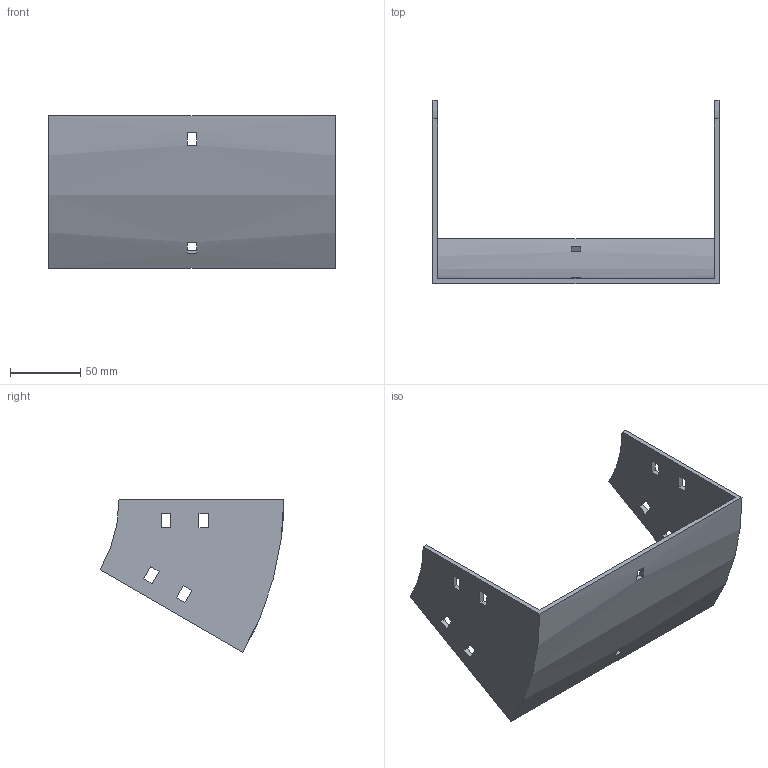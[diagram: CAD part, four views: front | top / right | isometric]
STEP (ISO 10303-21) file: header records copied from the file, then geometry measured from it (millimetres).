
FILE_DESCRIPTION (( 'STEP AP214' ), '1' );
FILE_NAME ('32B1J200.step', '2025-02-21T09:42:57', ( '' ), ( '' ), 'SwSTEP 2.0', 'SolidWorks 2023', '' );
FILE_SCHEMA (( 'AUTOMOTIVE_DESIGN' ));
Length unit declared in the file: millimetre
Products named in the file (1): 32B1J200
Bounding box: 204 x 130.9 x 108.75 mm (x, y, z)
Volume: 143886.9 mm3; surface area: 86787.7 mm2
Topology: 1 solids, 1 shells, 50 faces, 144 edges, 96 vertices
Faces by surface type: plane 46, cylinder 4
Entity records: 1687 total; most frequent: CARTESIAN_POINT 291, ORIENTED_EDGE 288, DIRECTION 262, EDGE_CURVE 144, LINE 128, VECTOR 128, VERTEX_POINT 96, EDGE_LOOP 70
